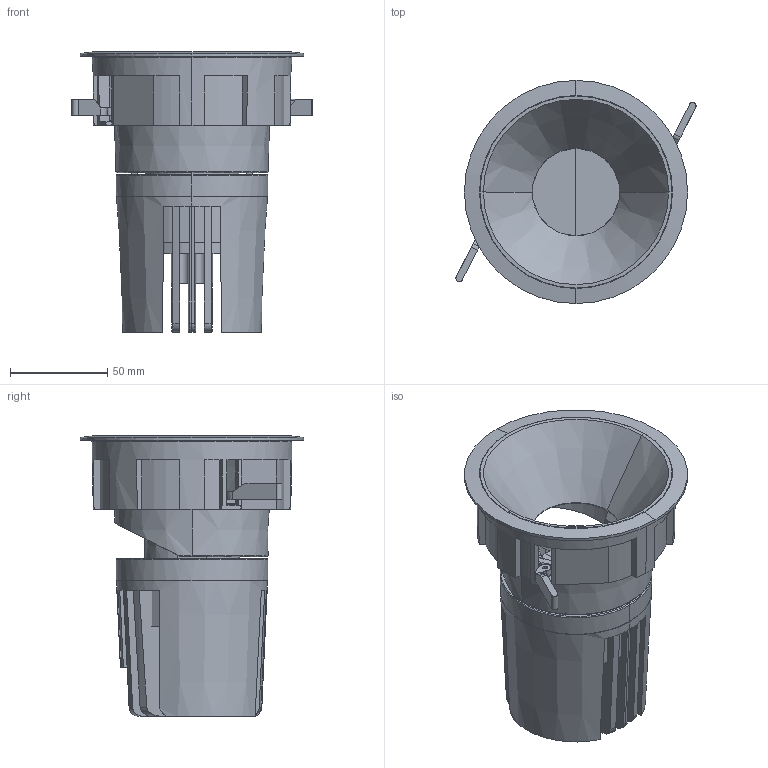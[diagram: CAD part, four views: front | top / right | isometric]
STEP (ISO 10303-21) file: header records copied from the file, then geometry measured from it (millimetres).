
FILE_DESCRIPTION(/* description */ (''),/* implementation_level */ '2;1');
FILE_NAME(/* name */ 'C:\Users\FrancoSartori\Documents\FARO\01_En Proceso\000_PRO\00_DEEP\03_Publicación\DEEP78 R CM.stp',/* time_stamp */ '2021-11-16T08:33:51+01:00',/* author */ ('FrancoSartori'),/* organization */ (''),/* preprocessor_version */ 'ST-DEVELOPER v18.1',/* originating_system */ 'AutoCAD Mechanical',/* authorisation */ '');
FILE_SCHEMA (('AUTOMOTIVE_DESIGN { 1 0 10303 214 3 1 1 }'));
Length unit declared in the file: millimetre
Products named in the file (1): Product
Bounding box: 123.71 x 115 x 144.7 mm (x, y, z)
Volume: 237573.4 mm3; surface area: 185310.2 mm2
Topology: 13 solids, 13 shells, 366 faces, 1027 edges, 652 vertices
Faces by surface type: plane 189, cylinder 116, cone 38, torus 21, bspline 2
Entity records: 13220 total; most frequent: CARTESIAN_POINT 3764, ORIENTED_EDGE 2054, DIRECTION 1919, EDGE_CURVE 1027, AXIS2_PLACEMENT_3D 712, VERTEX_POINT 652, LINE 495, VECTOR 495
